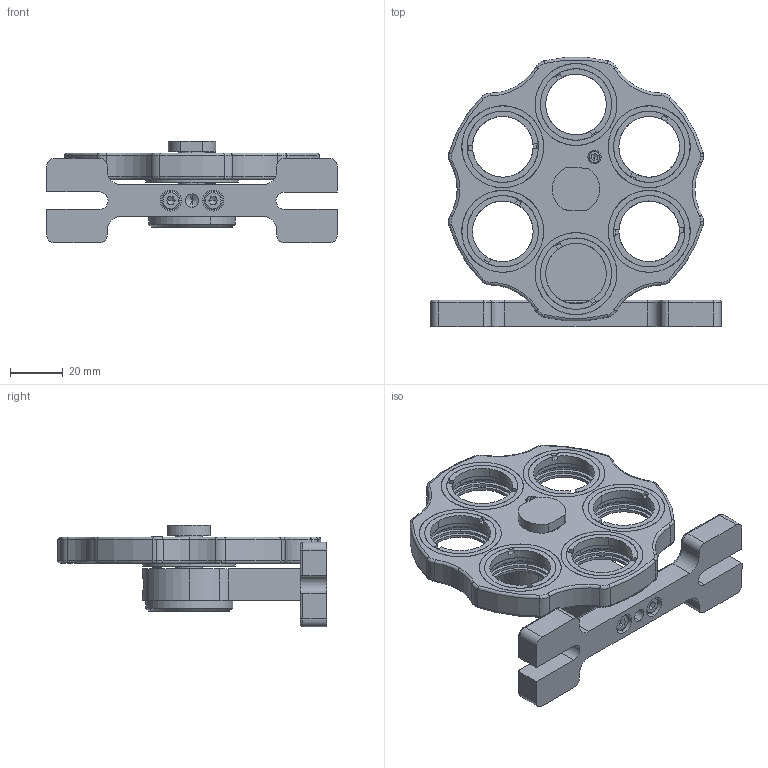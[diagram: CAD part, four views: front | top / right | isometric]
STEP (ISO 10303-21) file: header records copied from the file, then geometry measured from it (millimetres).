
FILE_DESCRIPTION (( 'STEP AP203' ), '1' );
FILE_NAME ('7MMF3254S薦嫖え謫.STEP', '2019-12-04T03:23:57', ( '' ), ( '' ), 'SwSTEP 2.0', 'SolidWorks 2018', '' );
FILE_SCHEMA (( 'CONFIG_CONTROL_DESIGN' ));
Length unit declared in the file: millimetre
Products named in the file (1): 7MMF3254S薦嫖え謫
Bounding box: 110 x 101.83 x 38.5 mm (x, y, z)
Volume: 88899.5 mm3; surface area: 59978.5 mm2
Topology: 29 solids, 29 shells, 609 faces, 1407 edges, 868 vertices
Faces by surface type: cylinder 249, plane 202, cone 86, torus 70, sphere 2
Entity records: 17513 total; most frequent: DIRECTION 3374, CARTESIAN_POINT 2985, ORIENTED_EDGE 2758, AXIS2_PLACEMENT_3D 1389, EDGE_CURVE 1379, VERTEX_POINT 868, CIRCLE 779, EDGE_LOOP 715
